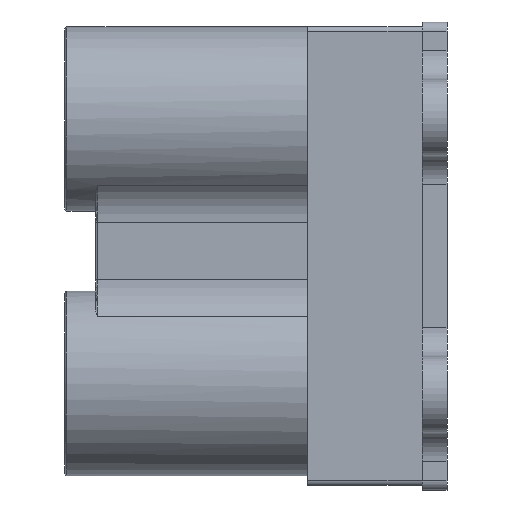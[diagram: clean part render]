
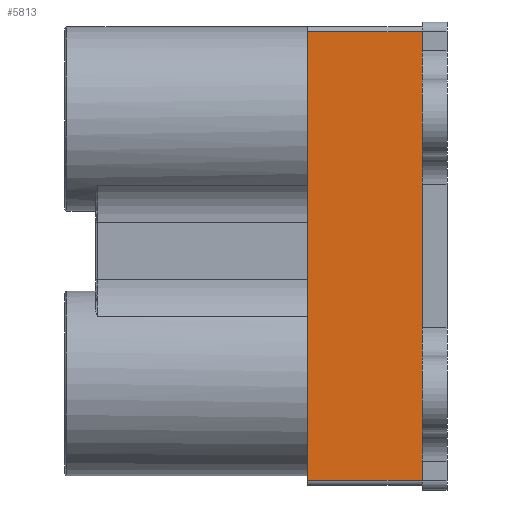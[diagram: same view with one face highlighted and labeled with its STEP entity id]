
A CAD part, left-side view. The second image highlights one B-rep face of the part: STEP entity #5813.
In plain terms, the highlighted planar face has unit normal (-1, 0, 0).
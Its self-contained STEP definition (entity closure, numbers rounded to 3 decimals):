
#197 = LINE ( 'NONE', #6462, #6004 ) ;
#1462 = DIRECTION ( 'NONE',  ( 0., 0., -1. ) ) ;
#1463 = EDGE_CURVE ( 'NONE', #6461, #3379, #1743, .T. ) ;
#1525 = VECTOR ( 'NONE', #4911, 1000. ) ;
#1555 = CARTESIAN_POINT ( 'NONE',  ( -10., 14.6, 23.5 ) ) ;
#1743 = LINE ( 'NONE', #2824, #7014 ) ;
#2155 = CARTESIAN_POINT ( 'NONE',  ( -10., 14.6, -23.5 ) ) ;
#2583 = DIRECTION ( 'NONE',  ( 0., 0., -1. ) ) ;
#2777 = VECTOR ( 'NONE', #3665, 1000. ) ;
#2802 = ORIENTED_EDGE ( 'NONE', *, *, #4794, .T. ) ;
#2824 = CARTESIAN_POINT ( 'NONE',  ( -10., 14.6, 0. ) ) ;
#3076 = CARTESIAN_POINT ( 'NONE',  ( -10., 2.6, -23.5 ) ) ;
#3126 = CARTESIAN_POINT ( 'NONE',  ( -10., 14.6, 23.5 ) ) ;
#3199 = EDGE_CURVE ( 'NONE', #4542, #6293, #197, .T. ) ;
#3379 = VERTEX_POINT ( 'NONE', #1555 ) ;
#3665 = DIRECTION ( 'NONE',  ( 0., -1., 0. ) ) ;
#3668 = CARTESIAN_POINT ( 'NONE',  ( -10., 14.6, -23.5 ) ) ;
#4192 = CARTESIAN_POINT ( 'NONE',  ( -10., 14.6, 0. ) ) ;
#4511 = DIRECTION ( 'NONE',  ( 0., 0., 1. ) ) ;
#4542 = VERTEX_POINT ( 'NONE', #4672 ) ;
#4672 = CARTESIAN_POINT ( 'NONE',  ( -10., 2.6, 23.5 ) ) ;
#4718 = ORIENTED_EDGE ( 'NONE', *, *, #3199, .F. ) ;
#4750 = DIRECTION ( 'NONE',  ( 1., 0., 0. ) ) ;
#4794 = EDGE_CURVE ( 'NONE', #6461, #6293, #6976, .T. ) ;
#4911 = DIRECTION ( 'NONE',  ( 0., -1., 0. ) ) ;
#5036 = AXIS2_PLACEMENT_3D ( 'NONE', #4192, #4750, #1462 ) ;
#5202 = ORIENTED_EDGE ( 'NONE', *, *, #1463, .F. ) ;
#5220 = PLANE ( 'NONE',  #5036 ) ;
#5264 = FACE_OUTER_BOUND ( 'NONE', #5881, .T. ) ;
#5789 = ORIENTED_EDGE ( 'NONE', *, *, #6375, .F. ) ;
#5813 = ADVANCED_FACE ( 'NONE', ( #5264 ), #5220, .F. ) ;
#5881 = EDGE_LOOP ( 'NONE', ( #4718, #5789, #5202, #2802 ) ) ;
#6004 = VECTOR ( 'NONE', #2583, 1000. ) ;
#6293 = VERTEX_POINT ( 'NONE', #3076 ) ;
#6375 = EDGE_CURVE ( 'NONE', #3379, #4542, #6770, .T. ) ;
#6461 = VERTEX_POINT ( 'NONE', #3668 ) ;
#6462 = CARTESIAN_POINT ( 'NONE',  ( -10., 2.6, 0. ) ) ;
#6770 = LINE ( 'NONE', #3126, #2777 ) ;
#6976 = LINE ( 'NONE', #2155, #1525 ) ;
#7014 = VECTOR ( 'NONE', #4511, 1000. ) ;
